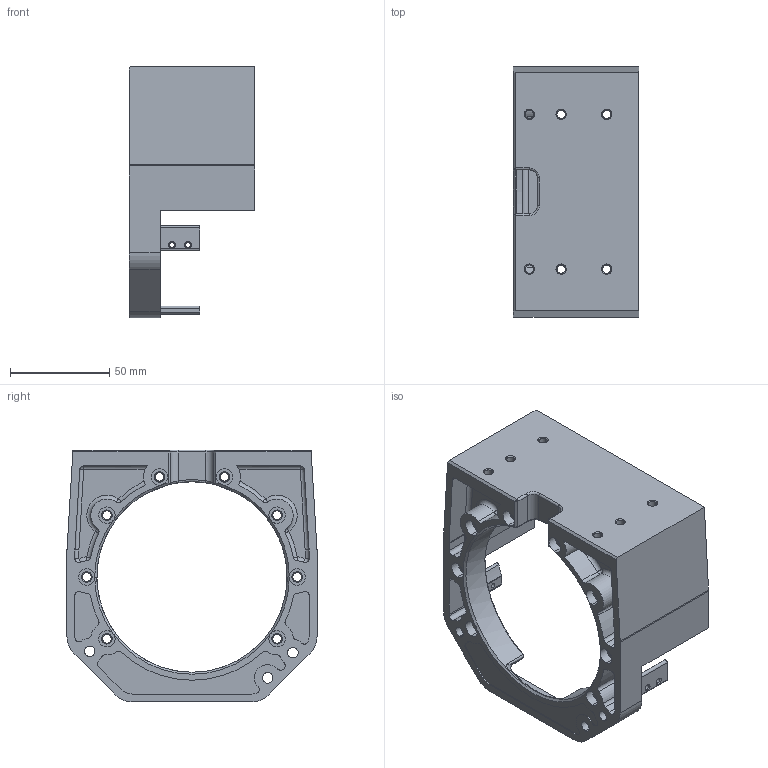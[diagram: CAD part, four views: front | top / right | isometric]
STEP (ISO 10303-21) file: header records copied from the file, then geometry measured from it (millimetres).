
FILE_DESCRIPTION((''),'2;1');
FILE_NAME('KD-D-101L_L_HIP_STATIC_1','2025-07-12T15:04:48',('Administrator'),(''),'CREO PARAMETRIC BY PTC INC, 2022073','CREO PARAMETRIC BY PTC INC, 2022073','');
FILE_SCHEMA(('CONFIG_CONTROL_DESIGN'));
Length unit declared in the file: millimetre
Products named in the file (1): KD-D-101L_L_HIP_STATIC_1
Bounding box: 63 x 126 x 127 mm (x, y, z)
Volume: 175901 mm3; surface area: 61524.5 mm2
Topology: 1 solids, 1 shells, 351 faces, 958 edges, 603 vertices
Faces by surface type: cylinder 180, plane 76, cone 61, torus 15, sphere 10, bspline 9
Entity records: 11706 total; most frequent: CARTESIAN_POINT 2443, DIRECTION 2094, ORIENTED_EDGE 1882, EDGE_CURVE 941, AXIS2_PLACEMENT_3D 851, VERTEX_POINT 603, CIRCLE 509, EDGE_LOOP 410
